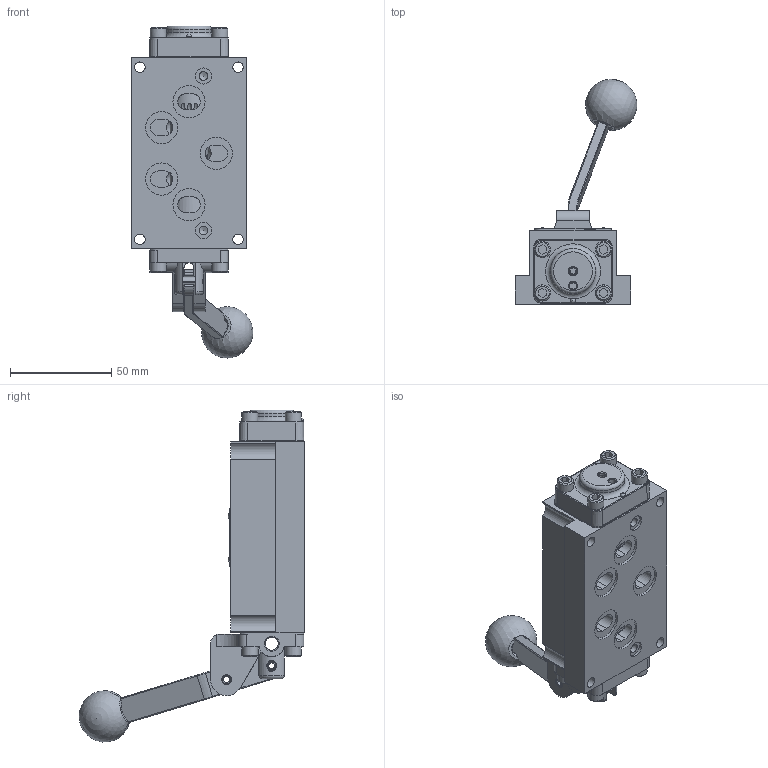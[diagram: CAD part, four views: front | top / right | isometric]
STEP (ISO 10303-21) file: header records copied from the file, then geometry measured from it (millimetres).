
FILE_DESCRIPTION(/* description */ (''),/* implementation_level */ '2;1');
FILE_NAME(/* name */ 'HA3PBLHJLO.stp',/* time_stamp */ '2025-01-31T15:10:34-05:00',/* author */ ('rmckenna'),/* organization */ (''),/* preprocessor_version */ 'ST-DEVELOPER v20',/* originating_system */ 'Autodesk Inventor 2024',/* authorisation */ '');
FILE_SCHEMA (('AUTOMOTIVE_DESIGN { 1 0 10303 214 3 1 1 }'));
Length unit declared in the file: centimetre
Products named in the file (1): Part133
Bounding box: 60.12 x 111.32 x 163.75 mm (x, y, z)
Volume: 184784.8 mm3; surface area: 61047 mm2
Topology: 1 solids, 28 shells, 1063 faces, 2576 edges, 1627 vertices
Faces by surface type: plane 430, cone 250, cylinder 242, torus 99, bspline 38, sphere 4
Full cylindrical faces by diameter (mm): 2.07 x2, 2.261 x2, 2.778 x2, 3.175 x2, 3.618 x1, 3.683 x10, 3.861 x2, 4.366 x2, 4.369 x3, 4.75 x2, 4.763 x2, 4.826 x8, 4.978 x4, 5.055 x1, 5.156 x8, 5.159 x4, 6.528 x3, 7.798 x1, 7.925 x2, 7.938 x8, 9.525 x1, 9.728 x1, 9.855 x1, 11.113 x1, 11.303 x3, 12.141 x2, 14.275 x1, 14.986 x1, 15.875 x5, 18.618 x1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
Entity records: 36126 total; most frequent: CARTESIAN_POINT 10113, DIRECTION 5196, ORIENTED_EDGE 5110, EDGE_CURVE 2555, AXIS2_PLACEMENT_3D 2011, VERTEX_POINT 1627, EDGE_LOOP 1216, LINE 1174
